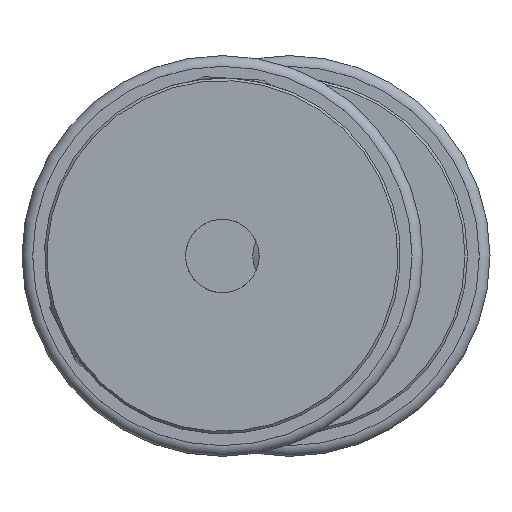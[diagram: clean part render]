
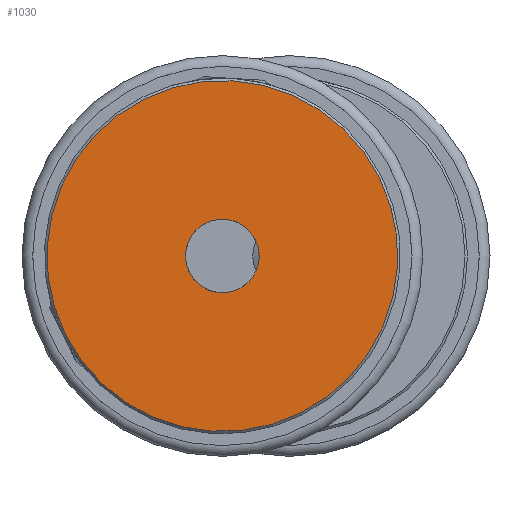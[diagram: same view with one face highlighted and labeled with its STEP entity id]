
A CAD part, left-side view. The second image highlights one B-rep face of the part: STEP entity #1030.
In plain terms, the highlighted planar face has unit normal (-1, 0, 0).
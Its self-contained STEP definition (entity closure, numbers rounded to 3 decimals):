
#1030 = ADVANCED_FACE( 'NONE', ( #1567, #1568 ), #1569, .F. );
#1567 = FACE_OUTER_BOUND( '', #1793, .T. );
#1568 = FACE_BOUND( '', #1794, .T. );
#1569 = PLANE( '', #1795 );
#1793 = EDGE_LOOP( '', ( #2173 ) );
#1794 = EDGE_LOOP( '', ( #2174 ) );
#1795 = AXIS2_PLACEMENT_3D( '', #2175, #2176, #2177 );
#2173 = ORIENTED_EDGE( '', *, *, #2468, .T. );
#2174 = ORIENTED_EDGE( '', *, *, #2480, .F. );
#2175 = CARTESIAN_POINT( '', ( 0., 3., 0. ) );
#2176 = DIRECTION( '', ( 1., 0., 0. ) );
#2177 = DIRECTION( '', ( 0., 1., 0. ) );
#2468 = EDGE_CURVE( 'NONE', #2766, #2766, #2767, .F. );
#2480 = EDGE_CURVE( 'NONE', #2788, #2788, #2789, .F. );
#2766 = VERTEX_POINT( '', #2857 );
#2767 = CIRCLE( '', #2858, 14.3 );
#2788 = VERTEX_POINT( '', #2945 );
#2789 = CIRCLE( '', #2946, 3. );
#2857 = CARTESIAN_POINT( '', ( 0., 0., -14.3 ) );
#2858 = AXIS2_PLACEMENT_3D( '', #3054, #3055, #3056 );
#2945 = CARTESIAN_POINT( '', ( 0., 0., -3. ) );
#2946 = AXIS2_PLACEMENT_3D( '', #3085, #3086, #3087 );
#3054 = CARTESIAN_POINT( '', ( 0., 0., 0. ) );
#3055 = DIRECTION( '', ( 1., 0., 0. ) );
#3056 = DIRECTION( '', ( 0., 0., -1. ) );
#3085 = CARTESIAN_POINT( '', ( 0., 0., 0. ) );
#3086 = DIRECTION( '', ( 1., 0., 0. ) );
#3087 = DIRECTION( '', ( 0., 0., -1. ) );
